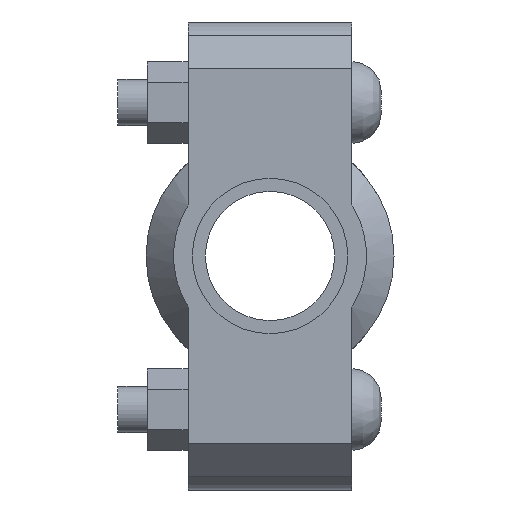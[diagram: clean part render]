
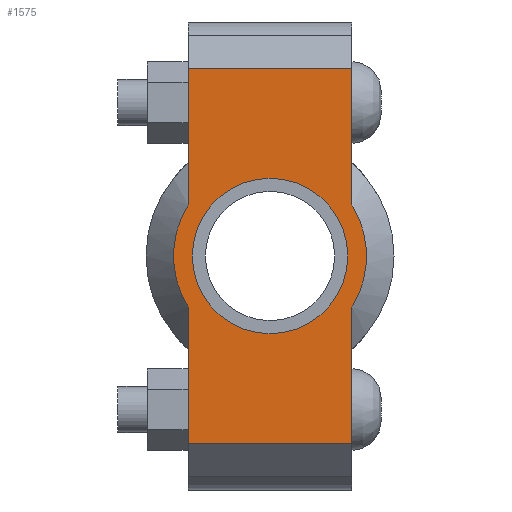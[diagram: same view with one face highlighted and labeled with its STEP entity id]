
A CAD part, left-side view. The second image highlights one B-rep face of the part: STEP entity #1575.
In plain terms, the highlighted planar face has unit normal (-1, 0, 0) as drawn and (0, 0, 1) by its records, which use the part's own axes.
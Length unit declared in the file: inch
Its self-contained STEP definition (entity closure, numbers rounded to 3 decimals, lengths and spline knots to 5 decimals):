
#186=LINE('',#2707,#281);
#201=LINE('',#2766,#296);
#209=LINE('',#2796,#304);
#211=LINE('',#2799,#306);
#212=LINE('',#2804,#307);
#213=LINE('',#2805,#308);
#281=VECTOR('',#2181,0.3937);
#296=VECTOR('',#2216,0.3937);
#304=VECTOR('',#2236,0.3937);
#306=VECTOR('',#2240,0.3937);
#307=VECTOR('',#2245,0.3937);
#308=VECTOR('',#2246,0.3937);
#368=FACE_BOUND('',#527,.T.);
#428=FACE_OUTER_BOUND('',#526,.T.);
#526=EDGE_LOOP('',(#1270,#1271,#1272,#1273,#1274,#1275,#1276,#1277));
#527=EDGE_LOOP('',(#1278));
#632=CIRCLE('',#1838,1.031);
#633=CIRCLE('',#1839,1.031);
#634=CIRCLE('',#1840,0.83);
#741=VERTEX_POINT('',#2704);
#742=VERTEX_POINT('',#2706);
#763=VERTEX_POINT('',#2761);
#764=VERTEX_POINT('',#2765);
#773=VERTEX_POINT('',#2791);
#774=VERTEX_POINT('',#2795);
#775=VERTEX_POINT('',#2801);
#776=VERTEX_POINT('',#2803);
#777=VERTEX_POINT('',#2807);
#911=EDGE_CURVE('',#742,#741,#186,.T.);
#936=EDGE_CURVE('',#764,#763,#201,.T.);
#949=EDGE_CURVE('',#774,#773,#209,.T.);
#951=EDGE_CURVE('',#774,#741,#211,.T.);
#952=EDGE_CURVE('',#773,#775,#632,.T.);
#953=EDGE_CURVE('',#775,#776,#212,.T.);
#954=EDGE_CURVE('',#764,#776,#213,.T.);
#955=EDGE_CURVE('',#763,#742,#633,.T.);
#956=EDGE_CURVE('',#777,#777,#634,.T.);
#1270=ORIENTED_EDGE('',*,*,#951,.F.);
#1271=ORIENTED_EDGE('',*,*,#949,.T.);
#1272=ORIENTED_EDGE('',*,*,#952,.T.);
#1273=ORIENTED_EDGE('',*,*,#953,.T.);
#1274=ORIENTED_EDGE('',*,*,#954,.F.);
#1275=ORIENTED_EDGE('',*,*,#936,.T.);
#1276=ORIENTED_EDGE('',*,*,#955,.T.);
#1277=ORIENTED_EDGE('',*,*,#911,.T.);
#1278=ORIENTED_EDGE('',*,*,#956,.T.);
#1427=PLANE('',#1837);
#1575=ADVANCED_FACE('',(#428,#368),#1427,.T.);
#1837=AXIS2_PLACEMENT_3D('',#2800,#2241,#2242);
#1838=AXIS2_PLACEMENT_3D('',#2802,#2243,#2244);
#1839=AXIS2_PLACEMENT_3D('',#2806,#2247,#2248);
#1840=AXIS2_PLACEMENT_3D('',#2808,#2249,#2250);
#2181=DIRECTION('',(1.,0.,0.));
#2216=DIRECTION('',(1.,0.,0.));
#2236=DIRECTION('',(-1.,0.,0.));
#2240=DIRECTION('',(0.,-1.,0.));
#2241=DIRECTION('center_axis',(0.,0.,1.));
#2242=DIRECTION('ref_axis',(-1.,0.,0.));
#2243=DIRECTION('center_axis',(0.,0.,1.));
#2244=DIRECTION('ref_axis',(1.,0.,0.));
#2245=DIRECTION('',(-1.,0.,0.));
#2246=DIRECTION('',(0.,1.,0.));
#2247=DIRECTION('center_axis',(0.,0.,1.));
#2248=DIRECTION('ref_axis',(1.,0.,0.));
#2249=DIRECTION('center_axis',(0.,0.,-1.));
#2250=DIRECTION('ref_axis',(1.,0.,0.));
#2704=CARTESIAN_POINT('',(2.,-0.875,0.94));
#2706=CARTESIAN_POINT('',(0.54529,-0.875,0.94));
#2707=CARTESIAN_POINT('',(-2.5,-0.875,0.94));
#2761=CARTESIAN_POINT('',(-0.54529,-0.875,0.94));
#2765=CARTESIAN_POINT('',(-2.,-0.875,0.94));
#2766=CARTESIAN_POINT('',(-2.5,-0.875,0.94));
#2791=CARTESIAN_POINT('',(0.54529,0.875,0.94));
#2795=CARTESIAN_POINT('',(2.,0.875,0.94));
#2796=CARTESIAN_POINT('',(2.5,0.875,0.94));
#2799=CARTESIAN_POINT('',(2.,-0.4375,0.94));
#2800=CARTESIAN_POINT('Origin',(0.,0.,
0.94));
#2801=CARTESIAN_POINT('',(-0.54529,0.875,0.94));
#2802=CARTESIAN_POINT('Origin',(0.,0.,0.94));
#2803=CARTESIAN_POINT('',(-2.,0.875,0.94));
#2804=CARTESIAN_POINT('',(2.5,0.875,0.94));
#2805=CARTESIAN_POINT('',(-2.,0.4375,0.94));
#2806=CARTESIAN_POINT('Origin',(0.,0.,0.94));
#2807=CARTESIAN_POINT('',(-0.83,0.,0.94));
#2808=CARTESIAN_POINT('Origin',(0.,0.,0.94));
